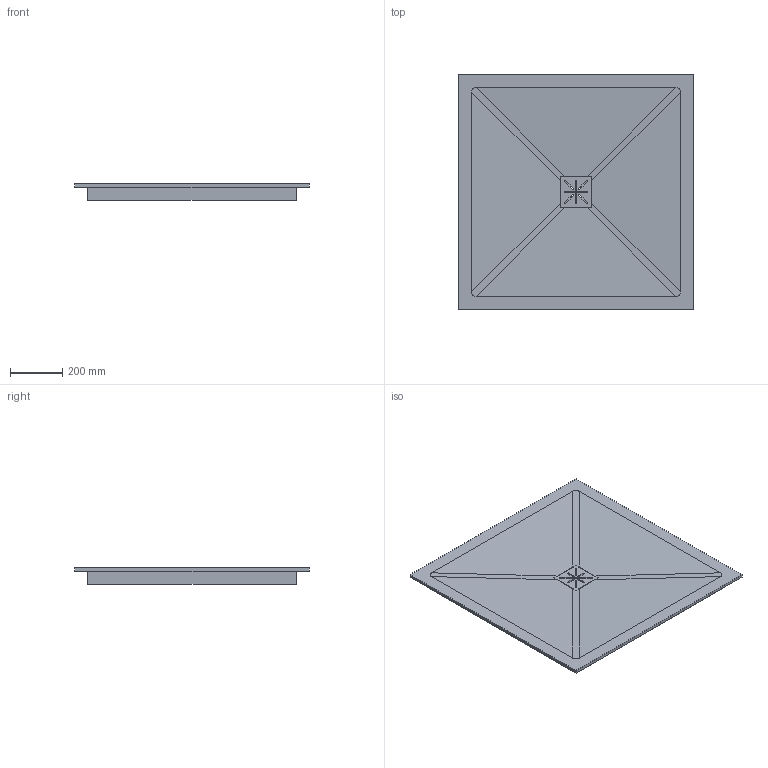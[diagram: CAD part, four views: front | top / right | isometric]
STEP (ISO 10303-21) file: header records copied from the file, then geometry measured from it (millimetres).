
FILE_DESCRIPTION (( 'STEP AP214' ), '1' );
FILE_NAME ('FOSTER 90x90.STEP', '2024-05-14T07:00:50', ( '' ), ( '' ), 'SwSTEP 2.0', 'SolidWorks 2021', '' );
FILE_SCHEMA (( 'AUTOMOTIVE_DESIGN' ));
Length unit declared in the file: millimetre
Products named in the file (1): FOSTER 90x90
Bounding box: 900 x 900 x 62 mm (x, y, z)
Volume: 11740677.2 mm3; surface area: 2018611 mm2
Topology: 1 solids, 1 shells, 119 faces, 372 edges, 244 vertices
Faces by surface type: plane 75, cylinder 43, bspline 1
Full cylindrical faces by diameter (mm): 8 x1, 52 x1
Entity records: 4609 total; most frequent: CARTESIAN_POINT 1326, ORIENTED_EDGE 736, DIRECTION 621, EDGE_CURVE 368, VERTEX_POINT 243, VECTOR 229, LINE 229, AXIS2_PLACEMENT_3D 196
